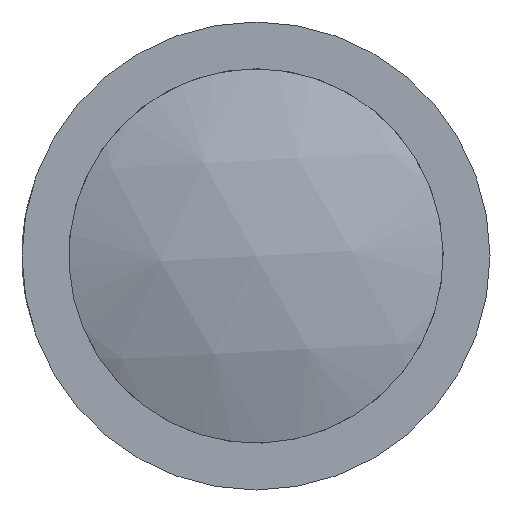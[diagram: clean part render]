
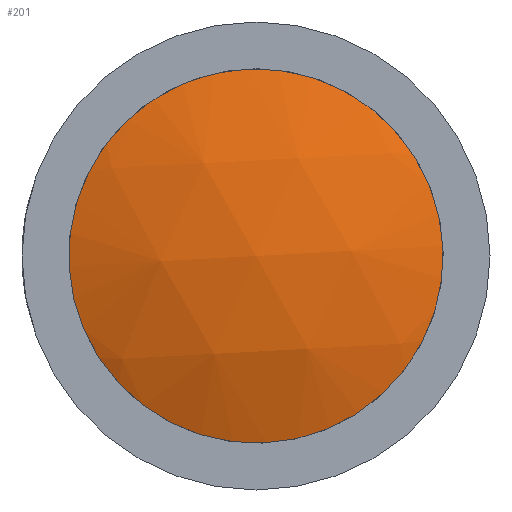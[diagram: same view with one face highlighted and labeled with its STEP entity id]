
A CAD part, left-side view. The second image highlights one B-rep face of the part: STEP entity #201.
In plain terms, the highlighted spherical face has radius 15.6 mm.
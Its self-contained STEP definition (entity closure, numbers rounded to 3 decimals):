
#185=CARTESIAN_POINT('',(15.9,0.,0.));
#186=DIRECTION('',(0.,0.054,0.999));
#187=DIRECTION('',(1.0,0.0,0.0));
#188=AXIS2_PLACEMENT_3D('',#185,#186,#187);
#189=SPHERICAL_SURFACE('',#188,15.6);
#190=CARTESIAN_POINT('',(1.5,5.991,-0.324));
#191=VERTEX_POINT('',#190);
#192=CARTESIAN_POINT('',(1.5,0.,0.0));
#193=DIRECTION('',(1.0,0.0,0.0));
#194=DIRECTION('',(0.0,0.0,1.0));
#195=AXIS2_PLACEMENT_3D('',#192,#193,#194);
#196=CIRCLE('',#195,6.);
#197=EDGE_CURVE('',#191,#191,#196,.T.);
#198=ORIENTED_EDGE('',*,*,#197,.F.);
#199=EDGE_LOOP('',(#198));
#200=FACE_OUTER_BOUND('',#199,.T.);
#201=ADVANCED_FACE('',(#200),#189,.T.);
